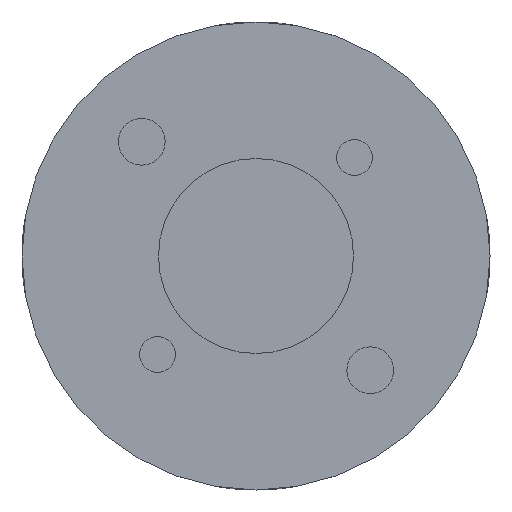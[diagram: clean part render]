
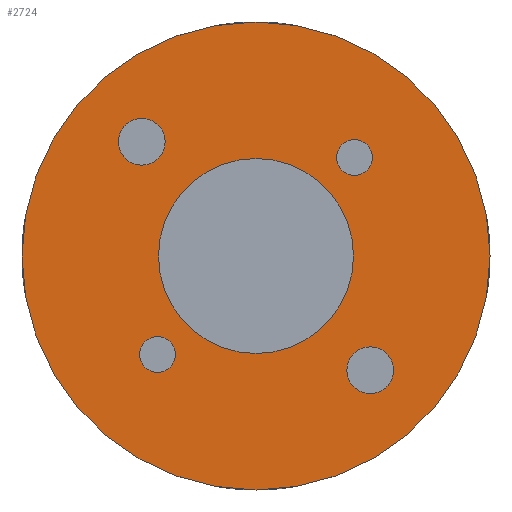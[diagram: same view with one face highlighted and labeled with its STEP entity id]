
A CAD part, front view. The second image highlights one B-rep face of the part: STEP entity #2724.
In plain terms, the highlighted planar face has unit normal (0, -1, 0).
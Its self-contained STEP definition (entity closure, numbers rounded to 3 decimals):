
#31 = VERTEX_POINT ( 'NONE', #808 ) ;
#93 = AXIS2_PLACEMENT_3D ( 'NONE', #1048, #1903, #2923 ) ;
#154 = VERTEX_POINT ( 'NONE', #4612 ) ;
#155 = DIRECTION ( 'NONE',  ( 0., 0., -1. ) ) ;
#300 = DIRECTION ( 'NONE',  ( 0., -1., 0. ) ) ;
#425 = EDGE_CURVE ( 'NONE', #4413, #4251, #2048, .T. ) ;
#522 = EDGE_CURVE ( 'NONE', #31, #1977, #1269, .T. ) ;
#534 = ORIENTED_EDGE ( 'NONE', *, *, #4854, .F. ) ;
#548 = FACE_BOUND ( 'NONE', #2064, .T. ) ;
#648 = CARTESIAN_POINT ( 'NONE',  ( -10.253, 0., 10.253 ) ) ;
#808 = CARTESIAN_POINT ( 'NONE',  ( -10.253, 0., 12.353 ) ) ;
#921 = FACE_BOUND ( 'NONE', #1965, .T. ) ;
#953 = DIRECTION ( 'NONE',  ( 0., -1., 0. ) ) ;
#954 = CARTESIAN_POINT ( 'NONE',  ( -10.253, 0., 10.253 ) ) ;
#1031 = ORIENTED_EDGE ( 'NONE', *, *, #4223, .F. ) ;
#1041 = DIRECTION ( 'NONE',  ( 0., -1., 0. ) ) ;
#1048 = CARTESIAN_POINT ( 'NONE',  ( 10.253, 0., -10.253 ) ) ;
#1082 = CIRCLE ( 'NONE', #93, 2.1 ) ;
#1208 = AXIS2_PLACEMENT_3D ( 'NONE', #4603, #953, #2274 ) ;
#1242 = DIRECTION ( 'NONE',  ( 0., -1., 0. ) ) ;
#1269 = CIRCLE ( 'NONE', #1563, 2.1 ) ;
#1384 = AXIS2_PLACEMENT_3D ( 'NONE', #648, #1995, #155 ) ;
#1430 = VERTEX_POINT ( 'NONE', #2471 ) ;
#1468 = FACE_BOUND ( 'NONE', #5707, .T. ) ;
#1491 = CIRCLE ( 'NONE', #3835, 8.75 ) ;
#1502 = CIRCLE ( 'NONE', #1208, 1.6 ) ;
#1533 = EDGE_CURVE ( 'NONE', #5234, #2823, #5372, .T. ) ;
#1563 = AXIS2_PLACEMENT_3D ( 'NONE', #954, #5199, #3839 ) ;
#1601 = EDGE_CURVE ( 'NONE', #3345, #154, #2406, .T. ) ;
#1617 = DIRECTION ( 'NONE',  ( 0., 0., -1. ) ) ;
#1697 = VERTEX_POINT ( 'NONE', #2966 ) ;
#1782 = ORIENTED_EDGE ( 'NONE', *, *, #3775, .F. ) ;
#1789 = AXIS2_PLACEMENT_3D ( 'NONE', #4872, #4412, #1617 ) ;
#1811 = DIRECTION ( 'NONE',  ( 0., 0., -1. ) ) ;
#1859 = AXIS2_PLACEMENT_3D ( 'NONE', #5931, #5498, #1811 ) ;
#1867 = CIRCLE ( 'NONE', #5688, 21. ) ;
#1895 = CARTESIAN_POINT ( 'NONE',  ( 0., 0., 21. ) ) ;
#1903 = DIRECTION ( 'NONE',  ( 0., -1., 0. ) ) ;
#1965 = EDGE_LOOP ( 'NONE', ( #5493, #5696 ) ) ;
#1977 = VERTEX_POINT ( 'NONE', #5028 ) ;
#1995 = DIRECTION ( 'NONE',  ( 0., -1., 0. ) ) ;
#2048 = CIRCLE ( 'NONE', #5587, 1.6 ) ;
#2064 = EDGE_LOOP ( 'NONE', ( #2272, #5049 ) ) ;
#2190 = DIRECTION ( 'NONE',  ( 0., 0., -1. ) ) ;
#2272 = ORIENTED_EDGE ( 'NONE', *, *, #425, .F. ) ;
#2274 = DIRECTION ( 'NONE',  ( 0., 0., -1. ) ) ;
#2281 = DIRECTION ( 'NONE',  ( 0., -1., 0. ) ) ;
#2328 = AXIS2_PLACEMENT_3D ( 'NONE', #4865, #1242, #3095 ) ;
#2335 = DIRECTION ( 'NONE',  ( 0., 0., -1. ) ) ;
#2384 = FACE_OUTER_BOUND ( 'NONE', #4655, .T. ) ;
#2406 = CIRCLE ( 'NONE', #3388, 2.1 ) ;
#2471 = CARTESIAN_POINT ( 'NONE',  ( 0., 0., -8.75 ) ) ;
#2649 = CARTESIAN_POINT ( 'NONE',  ( 10.253, 0., -10.253 ) ) ;
#2703 = CARTESIAN_POINT ( 'NONE',  ( 8.839, 0., 10.439 ) ) ;
#2724 = ADVANCED_FACE ( 'NONE', ( #4658, #548, #921, #1468, #3316, #2384 ), #3834, .T. ) ;
#2823 = VERTEX_POINT ( 'NONE', #1895 ) ;
#2852 = CIRCLE ( 'NONE', #1859, 8.75 ) ;
#2923 = DIRECTION ( 'NONE',  ( 0., 0., -1. ) ) ;
#2966 = CARTESIAN_POINT ( 'NONE',  ( 8.839, 0., 7.239 ) ) ;
#3095 = DIRECTION ( 'NONE',  ( 0., 0., -1. ) ) ;
#3183 = CARTESIAN_POINT ( 'NONE',  ( 10.253, 0., -8.153 ) ) ;
#3250 = CARTESIAN_POINT ( 'NONE',  ( 0., 0., 0. ) ) ;
#3276 = ORIENTED_EDGE ( 'NONE', *, *, #3926, .F. ) ;
#3316 = FACE_BOUND ( 'NONE', #3572, .T. ) ;
#3340 = DIRECTION ( 'NONE',  ( 0., -1., 0. ) ) ;
#3345 = VERTEX_POINT ( 'NONE', #3183 ) ;
#3388 = AXIS2_PLACEMENT_3D ( 'NONE', #2649, #4523, #2190 ) ;
#3539 = CIRCLE ( 'NONE', #1384, 2.1 ) ;
#3543 = CARTESIAN_POINT ( 'NONE',  ( 0., 0., -21. ) ) ;
#3572 = EDGE_LOOP ( 'NONE', ( #1031, #5171 ) ) ;
#3775 = EDGE_CURVE ( 'NONE', #1430, #5758, #2852, .T. ) ;
#3790 = DIRECTION ( 'NONE',  ( 0., 0., -1. ) ) ;
#3791 = VERTEX_POINT ( 'NONE', #2703 ) ;
#3802 = DIRECTION ( 'NONE',  ( 0., 0., -1. ) ) ;
#3813 = CARTESIAN_POINT ( 'NONE',  ( -8.839, 0., -7.239 ) ) ;
#3834 = PLANE ( 'NONE',  #5484 ) ;
#3835 = AXIS2_PLACEMENT_3D ( 'NONE', #3250, #3340, #3790 ) ;
#3839 = DIRECTION ( 'NONE',  ( 0., 0., -1. ) ) ;
#3926 = EDGE_CURVE ( 'NONE', #154, #3345, #1082, .T. ) ;
#4016 = EDGE_CURVE ( 'NONE', #1697, #3791, #5881, .T. ) ;
#4108 = EDGE_CURVE ( 'NONE', #2823, #5234, #1867, .T. ) ;
#4223 = EDGE_CURVE ( 'NONE', #1977, #31, #3539, .T. ) ;
#4240 = CARTESIAN_POINT ( 'NONE',  ( 8.839, 0., 8.839 ) ) ;
#4251 = VERTEX_POINT ( 'NONE', #3813 ) ;
#4364 = EDGE_LOOP ( 'NONE', ( #1782, #534 ) ) ;
#4412 = DIRECTION ( 'NONE',  ( 0., -1., 0. ) ) ;
#4413 = VERTEX_POINT ( 'NONE', #5071 ) ;
#4435 = EDGE_CURVE ( 'NONE', #4251, #4413, #1502, .T. ) ;
#4523 = DIRECTION ( 'NONE',  ( 0., -1., 0. ) ) ;
#4603 = CARTESIAN_POINT ( 'NONE',  ( -8.839, 0., -8.839 ) ) ;
#4612 = CARTESIAN_POINT ( 'NONE',  ( 10.253, 0., -12.353 ) ) ;
#4655 = EDGE_LOOP ( 'NONE', ( #5992, #5352 ) ) ;
#4658 = FACE_BOUND ( 'NONE', #4364, .T. ) ;
#4699 = CARTESIAN_POINT ( 'NONE',  ( 0., 0., 0. ) ) ;
#4721 = CARTESIAN_POINT ( 'NONE',  ( 0., 0., 0. ) ) ;
#4776 = EDGE_CURVE ( 'NONE', #3791, #1697, #4954, .T. ) ;
#4854 = EDGE_CURVE ( 'NONE', #5758, #1430, #1491, .T. ) ;
#4865 = CARTESIAN_POINT ( 'NONE',  ( 0., 0., 0. ) ) ;
#4872 = CARTESIAN_POINT ( 'NONE',  ( 8.839, 0., 8.839 ) ) ;
#4954 = CIRCLE ( 'NONE', #1789, 1.6 ) ;
#5028 = CARTESIAN_POINT ( 'NONE',  ( -10.253, 0., 8.153 ) ) ;
#5049 = ORIENTED_EDGE ( 'NONE', *, *, #4435, .F. ) ;
#5071 = CARTESIAN_POINT ( 'NONE',  ( -8.839, 0., -10.439 ) ) ;
#5140 = DIRECTION ( 'NONE',  ( 0., 0., -1. ) ) ;
#5171 = ORIENTED_EDGE ( 'NONE', *, *, #522, .F. ) ;
#5199 = DIRECTION ( 'NONE',  ( 0., -1., 0. ) ) ;
#5201 = DIRECTION ( 'NONE',  ( 0., -1., 0. ) ) ;
#5203 = AXIS2_PLACEMENT_3D ( 'NONE', #4240, #5201, #2335 ) ;
#5234 = VERTEX_POINT ( 'NONE', #3543 ) ;
#5352 = ORIENTED_EDGE ( 'NONE', *, *, #1533, .T. ) ;
#5372 = CIRCLE ( 'NONE', #2328, 21. ) ;
#5461 = ORIENTED_EDGE ( 'NONE', *, *, #1601, .F. ) ;
#5484 = AXIS2_PLACEMENT_3D ( 'NONE', #4721, #1041, #3802 ) ;
#5493 = ORIENTED_EDGE ( 'NONE', *, *, #4016, .F. ) ;
#5498 = DIRECTION ( 'NONE',  ( 0., -1., 0. ) ) ;
#5525 = CARTESIAN_POINT ( 'NONE',  ( 0., 0., 8.75 ) ) ;
#5587 = AXIS2_PLACEMENT_3D ( 'NONE', #5899, #300, #5622 ) ;
#5622 = DIRECTION ( 'NONE',  ( 0., 0., -1. ) ) ;
#5688 = AXIS2_PLACEMENT_3D ( 'NONE', #4699, #2281, #5140 ) ;
#5696 = ORIENTED_EDGE ( 'NONE', *, *, #4776, .F. ) ;
#5707 = EDGE_LOOP ( 'NONE', ( #3276, #5461 ) ) ;
#5758 = VERTEX_POINT ( 'NONE', #5525 ) ;
#5881 = CIRCLE ( 'NONE', #5203, 1.6 ) ;
#5899 = CARTESIAN_POINT ( 'NONE',  ( -8.839, 0., -8.839 ) ) ;
#5931 = CARTESIAN_POINT ( 'NONE',  ( 0., 0., 0. ) ) ;
#5992 = ORIENTED_EDGE ( 'NONE', *, *, #4108, .T. ) ;
